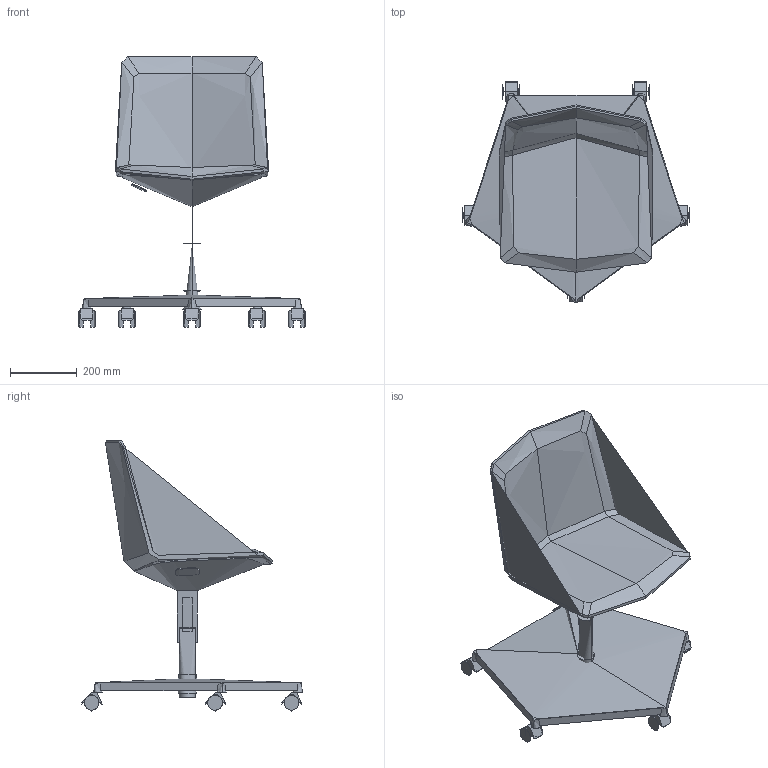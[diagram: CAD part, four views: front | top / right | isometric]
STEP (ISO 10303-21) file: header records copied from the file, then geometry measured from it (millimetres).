
FILE_DESCRIPTION(/* description */ (''),/* implementation_level */ '2;1');
FILE_NAME(/* name */ 'SKYFRE~1',/* time_stamp */ '2016-02-19T12:29:32+01:00',/* author */ (''),/* organization */ (''),/* preprocessor_version */ 'ST-DEVELOPER v15',/* originating_system */ '',/* authorisation */ '');
FILE_SCHEMA (('CONFIG_CONTROL_DESIGN'));
Length unit declared in the file: millimetre
Products named in the file (1): Document
Bounding box: 677.7 x 659.52 x 807.23 mm (x, y, z)
Volume: 9490686.4 mm3; surface area: 1201300.8 mm2
Topology: 6 solids, 24 shells, 233 faces, 560 edges, 353 vertices
Faces by surface type: bspline 198, plane 35
Entity records: 20208 total; most frequent: CARTESIAN_POINT 16965, ORIENTED_EDGE 1033, EDGE_CURVE 557, VERTEX_POINT 351, B_SPLINE_CURVE_WITH_KNOTS 272, ADVANCED_FACE 233, FACE_OUTER_BOUND 233, EDGE_LOOP 233
